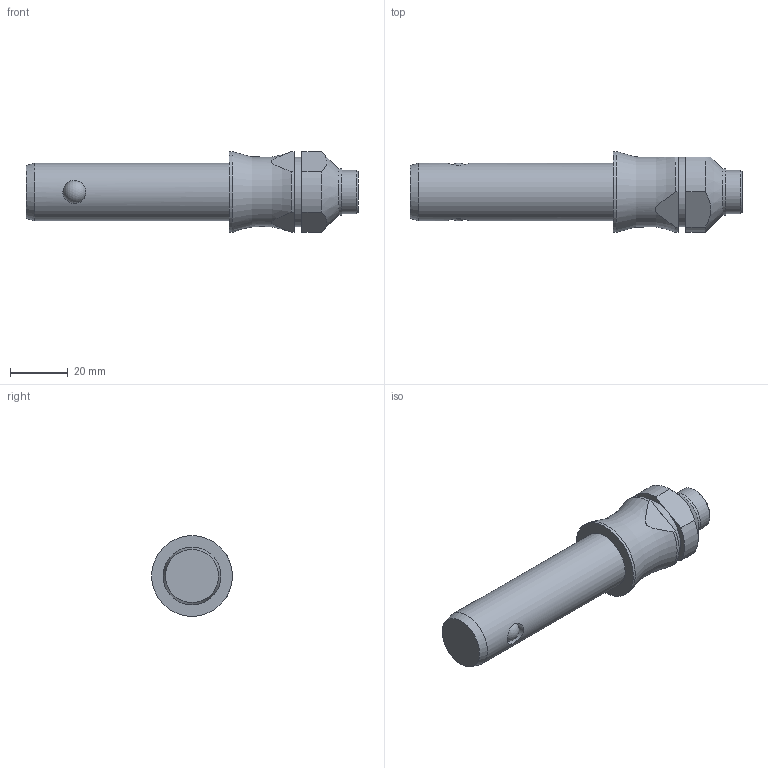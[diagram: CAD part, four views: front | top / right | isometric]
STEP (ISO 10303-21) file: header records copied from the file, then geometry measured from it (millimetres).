
FILE_DESCRIPTION( ( 'STEP AP203' ), '1' );
FILE_NAME( 'C:/Temp/Ganter_Step_05_03_2020/data/3_1/gn113_3/Stainless Steel-Ball lock pin GN 113.3-20-50 (activated).stp', '2020-03-12T08:19:02', ( 'License CC BY-ND 4.0' ), ( 'CADENAS' ), ' ', 'PARTsolutions', ' ' );
FILE_SCHEMA( ( 'CONFIG_CONTROL_DESIGN' ) );
Length unit declared in the file: millimetre
Products named in the file (1): _Stainless Steel-Ball lock pin GN 113.3-20-50 (activated)
Bounding box: 115.05 x 28 x 28 mm (x, y, z)
Volume: 41713.7 mm3; surface area: 9159.8 mm2
Topology: 1 solids, 1 shells, 31 faces, 74 edges, 46 vertices
Faces by surface type: cylinder 13, plane 11, cone 4, sphere 2, torus 1
Full cylindrical faces by diameter (mm): 8 x2, 15 x1, 16 x1, 20 x1, 24 x1, 28 x1
Entity records: 1054 total; most frequent: CARTESIAN_POINT 390, DIRECTION 134, ORIENTED_EDGE 104, AXIS2_PLACEMENT_3D 58, EDGE_CURVE 52, EDGE_LOOP 48, VERTEX_POINT 40, FACE_OUTER_BOUND 39
